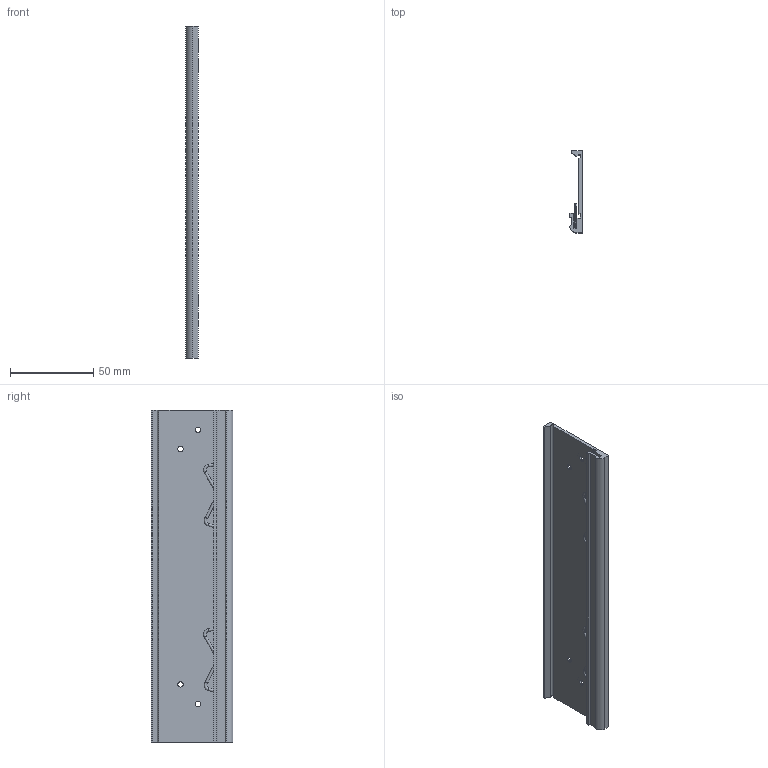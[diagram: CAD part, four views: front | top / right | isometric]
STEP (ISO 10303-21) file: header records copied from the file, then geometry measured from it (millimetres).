
FILE_DESCRIPTION((''),'2;1');
FILE_NAME('DIN-RAIL-8SLOT','2014-06-17T',('dkendric'),(''),'PRO/ENGINEER BY PARAMETRIC TECHNOLOGY CORPORATION, 2014000','PRO/ENGINEER BY PARAMETRIC TECHNOLOGY CORPORATION, 2014000','');
FILE_SCHEMA(('CONFIG_CONTROL_DESIGN'));
Length unit declared in the file: inch
Products named in the file (1): DIN-RAIL-8SLOT
Bounding box: 7.49 x 49.33 x 199.9 mm (x, y, z)
Volume: 28039.5 mm3; surface area: 29370.8 mm2
Topology: 1 solids, 1 shells, 98 faces, 232 edges, 144 vertices
Faces by surface type: cylinder 47, plane 31, torus 20
Entity records: 3218 total; most frequent: CARTESIAN_POINT 848, DIRECTION 516, ORIENTED_EDGE 464, EDGE_CURVE 232, AXIS2_PLACEMENT_3D 206, VERTEX_POINT 144, EDGE_LOOP 114, CIRCLE 108
